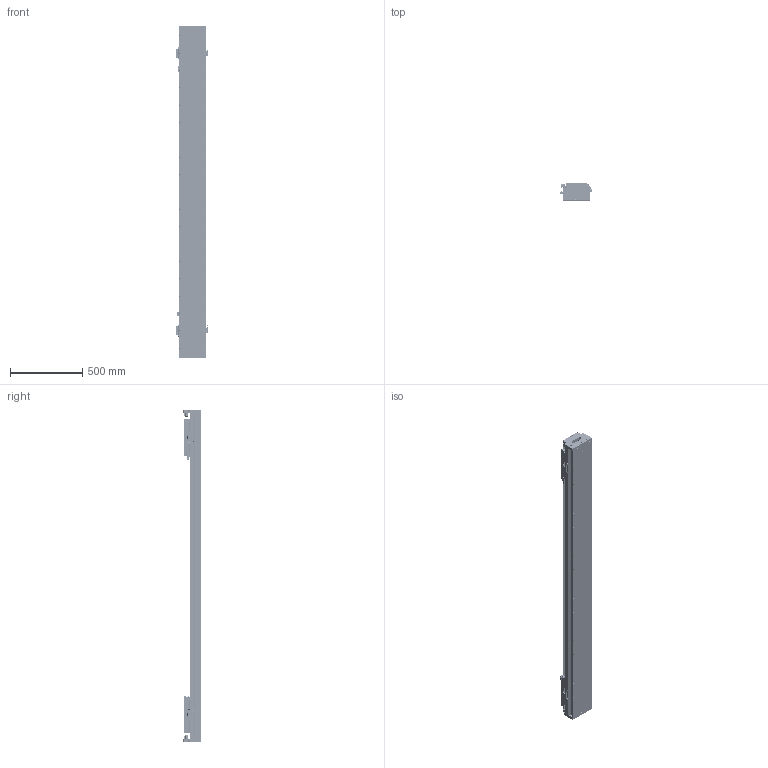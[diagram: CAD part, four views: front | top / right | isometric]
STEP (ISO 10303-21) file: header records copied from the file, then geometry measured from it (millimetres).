
FILE_DESCRIPTION (( 'STEP AP203' ), '1' );
FILE_NAME ('DKW188-2×C2-W090(T1640-L005-0.2).STEP', '2022-03-08T07:34:24', ( '微软用户' ), ( '微软中国' ), 'SwSTEP 2.0', 'SolidWorks 2018', '' );
FILE_SCHEMA (( 'CONFIG_CONTROL_DESIGN' ));
Length unit declared in the file: millimetre
Products named in the file (27): 11899-0001-006-00 嶺輸菜輸; SSR25-DG; DKW168-RU-DTJ-00 RU2黍杅芛盓殤; 11899-0001-002-00 詩湍裔啣; SSR25XW1UUC1; RUS嫖掑喜; DKW188 单轴模组-拉钢带组件; CKMA01-W090-TRLxxx; Ru2; DKW168-HYB-00 賑輸揤啣; 11500-0001-010-00 賑怢啣; CKM02-W090-C1C2-TP-3.0 珨极萇儂; pm-y65; 11899-0001-003-00 傷啣; DKW188-2×C2-W090(T1640-L005-0.2); DKW168-HXJ-ZJ-00 笢潔滅袉砎蝶; 10980-0001-003-00 嫖萇羲壽嘐隅釱; DKW168-HXJ-00 遣喳砎蝶; DKW-GYP-ZJ-00 笢潔嫖萇覜茼え; 嫖萇羲壽蚾饜极; 11899-0001-004-00 詩湍嶺輸; DKW-KGZ-ZJ-00 中间光电开关支架; 嫖萇羲壽蚾饜极A; 11899-0001-005-00 詩湍揤輸; 11899-0001-001-00 菁釱; EE_SX674A; DKW-SG-GYP-H-00 嫖萇覜茼え
Assembly tree (53 placements, depth 3):
  DKW188-2×C2-W090(T1640-L005-0.2)
    11899-0001-001-00 菁釱
    SSR25-DG  x2
    SSR25XW1UUC1  x8
    CKMA01-W090-TRLxxx
    11500-0001-010-00 賑怢啣  x2
    DKW188 单轴模组-拉钢带组件
      11899-0001-003-00 傷啣  x2
      DKW168-HXJ-00 遣喳砎蝶  x4
      11899-0001-004-00 詩湍嶺輸  x2
      11899-0001-005-00 詩湍揤輸  x2
      11899-0001-006-00 嶺輸菜輸  x2
      11899-0001-002-00 詩湍裔啣
    DKW168-HYB-00 賑輸揤啣  x4
    嫖萇羲壽蚾饜极
      pm-y65  x2
      10980-0001-003-00 嫖萇羲壽嘐隅釱
    嫖萇羲壽蚾饜极A
      pm-y65  x2
      10980-0001-003-00 嫖萇羲壽嘐隅釱
    DKW-SG-GYP-H-00 嫖萇覜茼え  x2
    DKW168-RU-DTJ-00 RU2黍杅芛盓殤  x2
    RUS嫖掑喜
    Ru2  x2
    CKM02-W090-C1C2-TP-3.0 珨极萇儂  x2
    DKW168-HXJ-ZJ-00 笢潔滅袉砎蝶
    DKW-GYP-ZJ-00 笢潔嫖萇覜茼え
    DKW-KGZ-ZJ-00 中间光电开关支架
    EE_SX674A
Bounding box: 222.1 x 120 x 2296 mm (x, y, z)
Volume: 19542431.7 mm3; surface area: 4573494.4 mm2
Topology: 56 solids, 154 shells, 7048 faces, 18320 edges, 11619 vertices
Faces by surface type: plane 3586, cylinder 2160, cone 752, bspline 550
Entity records: 121744 total; most frequent: CARTESIAN_POINT 40577, ORIENTED_EDGE 16003, DIRECTION 15630, EDGE_CURVE 8042, AXIS2_PLACEMENT_3D 5356, VERTEX_POINT 5254, VECTOR 4918, LINE 4918
